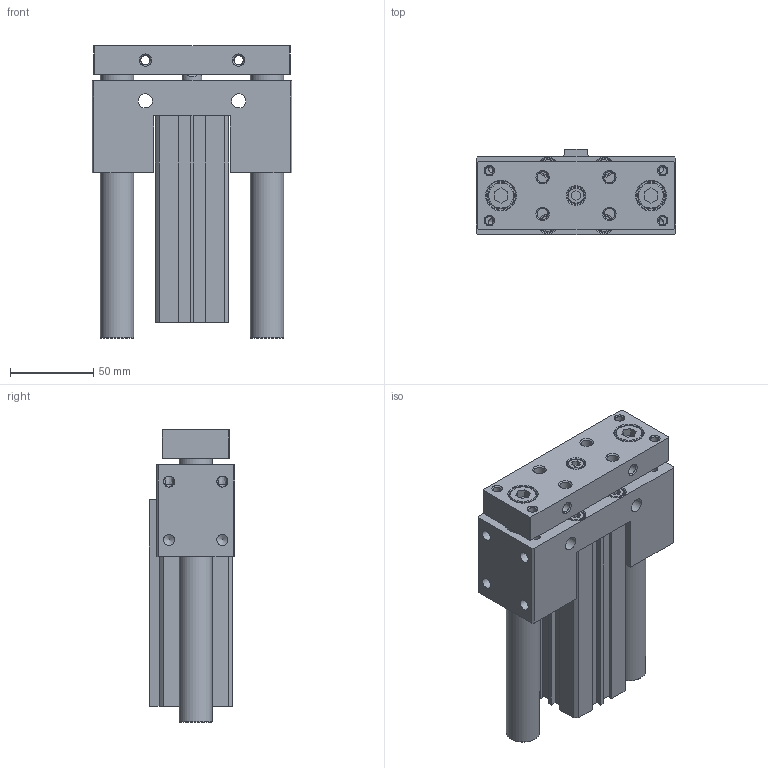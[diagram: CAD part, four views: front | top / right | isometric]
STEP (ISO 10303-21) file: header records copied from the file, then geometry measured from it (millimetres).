
FILE_DESCRIPTION((''),'2;1');
FILE_NAME('I:\3D電子目錄\氣缸\JCB\JCB\JCB32\JCB32x100.stp','2007-08-21T20:27:16',('Administrator'),(''),'Autodesk Inventor 11','Autodesk Inventor 11','');
FILE_SCHEMA(('AUTOMOTIVE_DESIGN { 1 0 10303 214 1 1 1 1 }'));
Length unit declared in the file: millimetre
Products named in the file (1): JCB32
Bounding box: 120 x 51.5 x 175.4 mm (x, y, z)
Volume: 563836.9 mm3; surface area: 128785.8 mm2
Topology: 3 solids, 3 shells, 320 faces, 754 edges, 489 vertices
Faces by surface type: plane 173, cylinder 53, bspline 45, cone 41, torus 8
Full cylindrical faces by diameter (mm): 2.2 x1, 5.1 x4, 6 x2, 6.647 x4, 8 x8, 10 x5, 11 x5, 12 x1, 13 x1, 16 x2, 17.5 x2, 20 x2, 22 x1, 23 x3, 34 x4, 36 x2
Entity records: 9272 total; most frequent: CARTESIAN_POINT 2540, DIRECTION 1340, ORIENTED_EDGE 1192, EDGE_CURVE 596, EDGE_LOOP 534, AXIS2_PLACEMENT_3D 492, VERTEX_POINT 458, VECTOR 356
